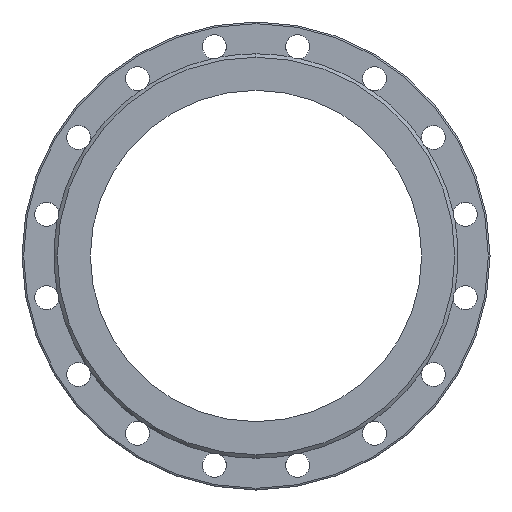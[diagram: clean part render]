
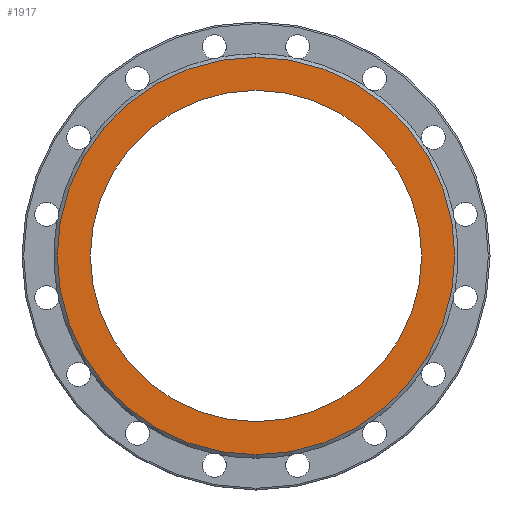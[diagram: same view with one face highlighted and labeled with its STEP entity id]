
A CAD part, left-side view. The second image highlights one B-rep face of the part: STEP entity #1917.
In plain terms, the highlighted planar face has unit normal (-1, 0, 0).
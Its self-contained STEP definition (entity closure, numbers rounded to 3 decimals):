
#89 = DIRECTION ( 'NONE',  ( 0., 0., -1. ) ) ;
#285 = CARTESIAN_POINT ( 'NONE',  ( -250., 0., 0. ) ) ;
#569 = EDGE_LOOP ( 'NONE', ( #6416, #6386 ) ) ;
#721 = VERTEX_POINT ( 'NONE', #4374 ) ;
#723 = CARTESIAN_POINT ( 'NONE',  ( -250., 0., -240. ) ) ;
#877 = CARTESIAN_POINT ( 'NONE',  ( -250., 0., 0. ) ) ;
#878 = VERTEX_POINT ( 'NONE', #4020 ) ;
#1071 = CIRCLE ( 'NONE', #5715, 240. ) ;
#1132 = VERTEX_POINT ( 'NONE', #1155 ) ;
#1155 = CARTESIAN_POINT ( 'NONE',  ( -250., 0., 200. ) ) ;
#1255 = ORIENTED_EDGE ( 'NONE', *, *, #3423, .T. ) ;
#1274 = PLANE ( 'NONE',  #4294 ) ;
#1336 = DIRECTION ( 'NONE',  ( 0., 0., 1. ) ) ;
#1564 = CARTESIAN_POINT ( 'NONE',  ( -250., 0., 0. ) ) ;
#1917 = ADVANCED_FACE ( 'Defeatured_0_4', ( #3305, #3839 ), #1274, .F. ) ;
#2880 = EDGE_CURVE ( 'Defeatured_0_3+Defeatured_0_4+Defeatured_0_4+Defeatured_0_4', #1132, #878, #3765, .T. ) ;
#3085 = DIRECTION ( 'NONE',  ( 0., 0., 1. ) ) ;
#3305 = FACE_BOUND ( 'NONE', #569, .T. ) ;
#3338 = CARTESIAN_POINT ( 'NONE',  ( -250., 200., 0. ) ) ;
#3423 = EDGE_CURVE ( 'Defeatured_0_4+Defeatured_0_0+Defeatured_0_0+Defeatured_0_0', #4480, #721, #1071, .T. ) ;
#3541 = AXIS2_PLACEMENT_3D ( 'NONE', #3913, #3821, #5973 ) ;
#3765 = CIRCLE ( 'NONE', #3541, 200. ) ;
#3821 = DIRECTION ( 'NONE',  ( -1., 0., 0. ) ) ;
#3839 = FACE_OUTER_BOUND ( 'NONE', #6143, .T. ) ;
#3889 = AXIS2_PLACEMENT_3D ( 'NONE', #877, #5459, #4035 ) ;
#3913 = CARTESIAN_POINT ( 'NONE',  ( -250., 0., 0. ) ) ;
#4020 = CARTESIAN_POINT ( 'NONE',  ( -250., 0., -200. ) ) ;
#4035 = DIRECTION ( 'NONE',  ( 0., 0., 1. ) ) ;
#4133 = DIRECTION ( 'NONE',  ( -1., 0., 0. ) ) ;
#4224 = CIRCLE ( 'NONE', #4334, 240. ) ;
#4294 = AXIS2_PLACEMENT_3D ( 'NONE', #3338, #5841, #89 ) ;
#4334 = AXIS2_PLACEMENT_3D ( 'NONE', #285, #4983, #1336 ) ;
#4374 = CARTESIAN_POINT ( 'NONE',  ( -250., 0., 240. ) ) ;
#4480 = VERTEX_POINT ( 'NONE', #723 ) ;
#4639 = CIRCLE ( 'NONE', #3889, 200. ) ;
#4983 = DIRECTION ( 'NONE',  ( -1., 0., 0. ) ) ;
#5321 = EDGE_CURVE ( 'Defeatured_0_4+Defeatured_0_0+Defeatured_0_0+Defeatured_0_0', #721, #4480, #4224, .T. ) ;
#5459 = DIRECTION ( 'NONE',  ( -1., 0., 0. ) ) ;
#5715 = AXIS2_PLACEMENT_3D ( 'NONE', #1564, #4133, #3085 ) ;
#5742 = ORIENTED_EDGE ( 'NONE', *, *, #5321, .T. ) ;
#5841 = DIRECTION ( 'NONE',  ( 1., 0., 0. ) ) ;
#5973 = DIRECTION ( 'NONE',  ( 0., 0., 1. ) ) ;
#6143 = EDGE_LOOP ( 'NONE', ( #1255, #5742 ) ) ;
#6386 = ORIENTED_EDGE ( 'NONE', *, *, #6509, .F. ) ;
#6416 = ORIENTED_EDGE ( 'NONE', *, *, #2880, .F. ) ;
#6509 = EDGE_CURVE ( 'Defeatured_0_3+Defeatured_0_4+Defeatured_0_4+Defeatured_0_4', #878, #1132, #4639, .T. ) ;
